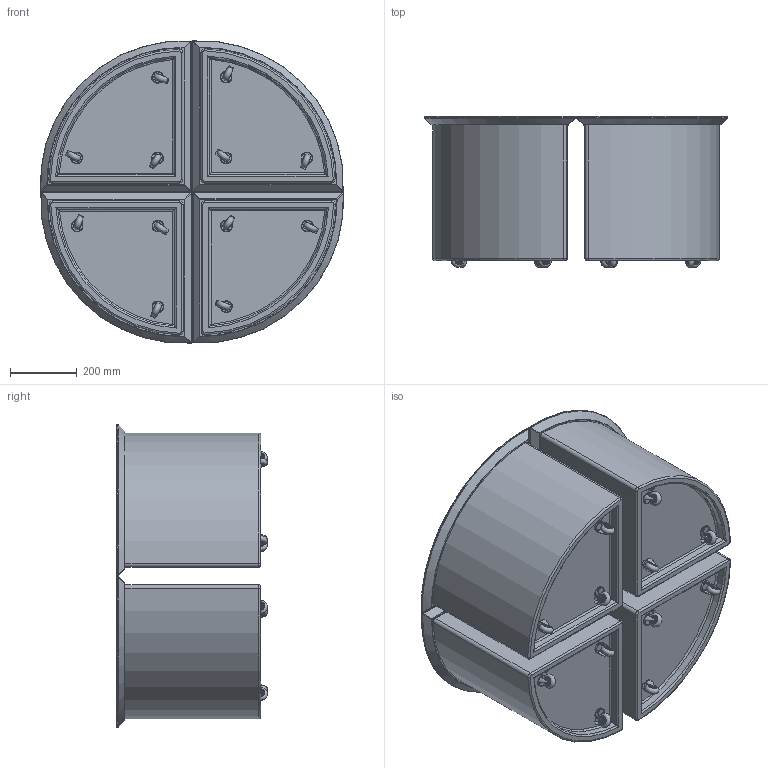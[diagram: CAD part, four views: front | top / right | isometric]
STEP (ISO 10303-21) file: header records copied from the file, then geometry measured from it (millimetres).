
FILE_DESCRIPTION(/* description */ (''),/* implementation_level */ '2;1');
FILE_NAME(/* name */ 'SLICE COFFEE TABLE LAYOUT 2.step',/* time_stamp */ '2024-10-09T16:17:29+13:00',/* author */ (''),/* organization */ (''),/* preprocessor_version */ 'ST-DEVELOPER v20',/* originating_system */ 'Autodesk Translation Framework v13.20.0.188',/* authorisation */ '');
FILE_SCHEMA (('AUTOMOTIVE_DESIGN { 1 0 10303 214 3 1 1 }'));
Length unit declared in the file: millimetre
Products named in the file (30): Slice; Component3; CLEAR CASTOR; caster throw v1; CLEAR CASTOR_1; caster throw v1_1; CLEAR CASTOR_2; caster throw v1_2; Component3_1; CLEAR CASTOR_3; caster throw v1_3; CLEAR CASTOR_4; caster throw v1_4; CLEAR CASTOR_5; caster throw v1_5; Component3_2; CLEAR CASTOR_6; caster throw v1_6; CLEAR CASTOR_7; caster throw v1_7; CLEAR CASTOR_8; caster throw v1_8; Component3_3; CLEAR CASTOR_9; caster throw v1_9; CLEAR CASTOR_10; caster throw v1_10; CLEAR CASTOR_11; caster throw v1_11; rigid_caster_mfae_210_gel_ct
Assembly tree (40 placements, depth 5):
  Slice
    Component3
      CLEAR CASTOR
        caster throw v1
          rigid_caster_mfae_210_gel_ct
      CLEAR CASTOR_1
        caster throw v1_1
          rigid_caster_mfae_210_gel_ct
      CLEAR CASTOR_2
        caster throw v1_2
          rigid_caster_mfae_210_gel_ct
    Component3_1
      CLEAR CASTOR_3
        caster throw v1_3
          rigid_caster_mfae_210_gel_ct
      CLEAR CASTOR_4
        caster throw v1_4
          rigid_caster_mfae_210_gel_ct
      CLEAR CASTOR_5
        caster throw v1_5
          rigid_caster_mfae_210_gel_ct
    Component3_2
      CLEAR CASTOR_6
        caster throw v1_6
          rigid_caster_mfae_210_gel_ct
      CLEAR CASTOR_7
        caster throw v1_7
          rigid_caster_mfae_210_gel_ct
      CLEAR CASTOR_8
        caster throw v1_8
          rigid_caster_mfae_210_gel_ct
    Component3_3
      CLEAR CASTOR_9
        caster throw v1_9
          rigid_caster_mfae_210_gel_ct
      CLEAR CASTOR_10
        caster throw v1_10
          rigid_caster_mfae_210_gel_ct
      CLEAR CASTOR_11
        caster throw v1_11
          rigid_caster_mfae_210_gel_ct
Bounding box: 904.33 x 450.3 x 902.25 mm (x, y, z)
Volume: 207758781.9 mm3; surface area: 4941898.7 mm2
Topology: 44 solids, 44 shells, 1964 faces, 5844 edges, 3792 vertices
Faces by surface type: cylinder 844, plane 760, torus 204, cone 100, sphere 36, bspline 20
Full cylindrical faces by diameter (mm): 5.5 x12, 12.5 x12, 31.667 x12, 35 x12
Entity records: 29250 total; most frequent: CARTESIAN_POINT 8816, DIRECTION 4317, ORIENTED_EDGE 4186, EDGE_CURVE 2093, AXIS2_PLACEMENT_3D 1708, VERTEX_POINT 1317, LINE 901, VECTOR 901
